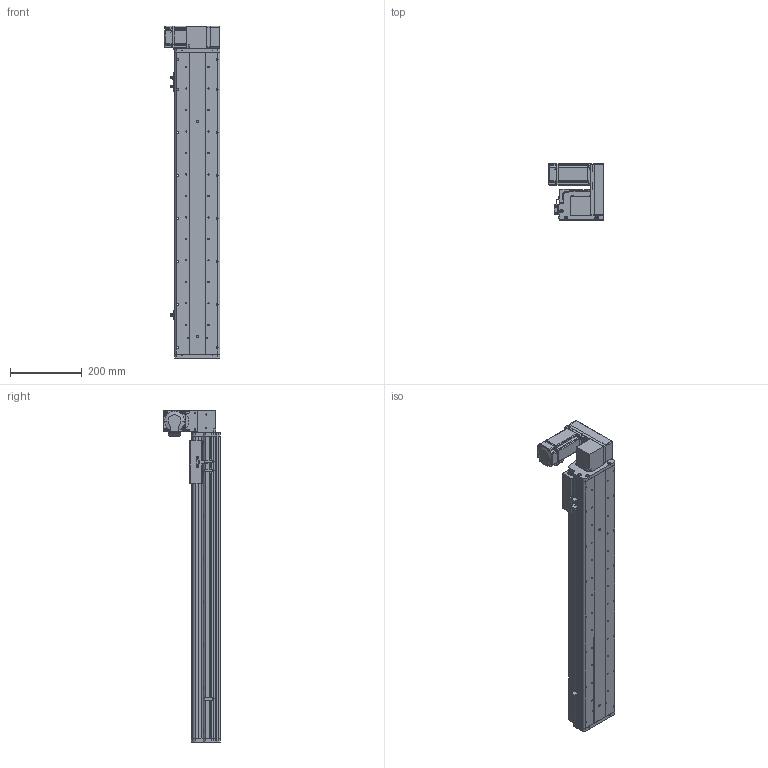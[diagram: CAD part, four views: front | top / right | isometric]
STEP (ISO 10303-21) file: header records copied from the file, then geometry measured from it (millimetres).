
FILE_DESCRIPTION (( 'STEP AP214' ), '1' );
FILE_NAME ('KSD125B-S650-MLU-CM.STEP', '2017-10-21T03:19:48', ( '微软用户' ), ( '微软中国' ), 'SwSTEP 2.0', 'SolidWorks 2014', '' );
FILE_SCHEMA (( 'AUTOMOTIVE_DESIGN' ));
Length unit declared in the file: millimetre
Products named in the file (17): 覜茼え68遵圉猾敕; U倰嫖萇假蚾璃; U倰嫖萇EEㄜSX672; KSD125模组同步带-防撞垫1; 前端板-125宽模组同步带; 125模组同步带-尾端板1; KSD125模组同步带-滑动座1; KSD125B-S650-MLU-CM; 悵誘欶奻狟殏; 100宽马达安装板连板上下折丝杆同步带; HTPA30S3M150_A_H6_a萇儂蚚; HTPA30S3M150_A_H6_a佪裝蚚; 100宽马达安装板同步带左; KSD125模组650行程同步带-防尘盖; 125模组650行程同步带-底板; MHMD042G1CA_2_03; KSD125模组同步带-防撞垫2
Assembly tree (20 placements, depth 2):
  KSD125B-S650-MLU-CM
    KSD125模组同步带-滑动座1
    125模组同步带-尾端板1
    前端板-125宽模组同步带
    KSD125模组同步带-防撞垫1
    U倰嫖萇EEㄜSX672  x3
    U倰嫖萇假蚾璃  x3
    覜茼え68遵圉猾敕
    KSD125模组同步带-防撞垫2
    MHMD042G1CA_2_03
    125模组650行程同步带-底板
    KSD125模组650行程同步带-防尘盖
    100宽马达安装板同步带左
    HTPA30S3M150_A_H6_a佪裝蚚
    HTPA30S3M150_A_H6_a萇儂蚚
    100宽马达安装板连板上下折丝杆同步带
    悵誘欶奻狟殏
Bounding box: 155 x 157.5 x 927 mm (x, y, z)
Volume: 2989801.9 mm3; surface area: 1027032.5 mm2
Topology: 19 solids, 22 shells, 2267 faces, 6565 edges, 4338 vertices
Faces by surface type: cylinder 1416, plane 724, cone 105, bspline 22
Entity records: 80459 total; most frequent: CARTESIAN_POINT 15915, DIRECTION 12514, ORIENTED_EDGE 11650, EDGE_CURVE 5903, AXIS2_PLACEMENT_3D 4833, VERTEX_POINT 3930, LINE 2848, VECTOR 2848
